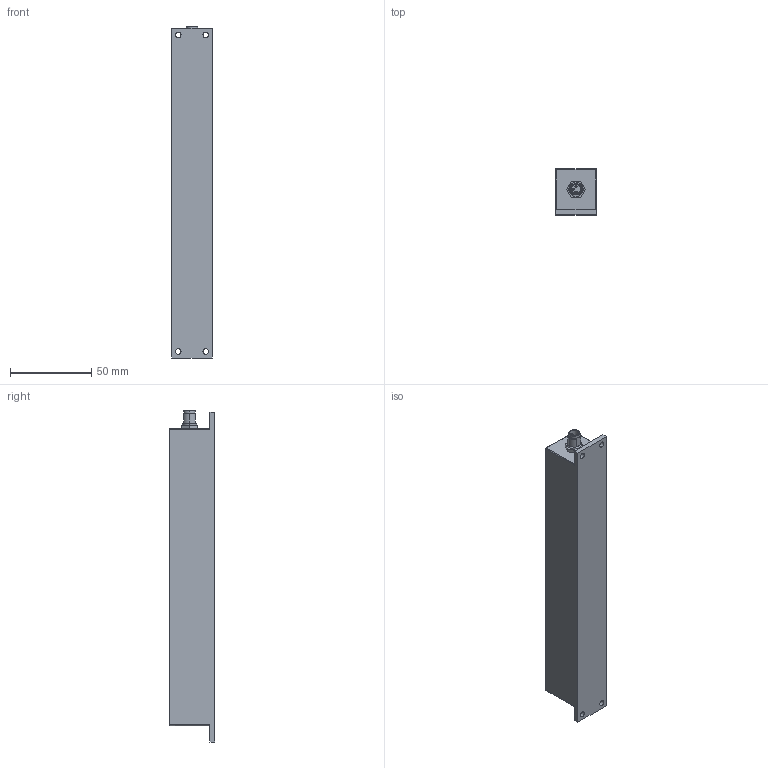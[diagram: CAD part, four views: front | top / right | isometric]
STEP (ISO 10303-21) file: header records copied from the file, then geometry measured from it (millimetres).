
FILE_DESCRIPTION (( 'STEP AP214' ), '1' );
FILE_NAME ('L1024.STEP', '2021-03-15T10:52:26', ( '' ), ( '' ), 'SwSTEP 2.0', 'SolidWorks 2021', '' );
FILE_SCHEMA (( 'AUTOMOTIVE_DESIGN' ));
Length unit declared in the file: millimetre
Products named in the file (3): L1024; L1G001024-203-einfach; M8 Flanschstecker, 3pol. mit Litzen
Assembly tree (2 placements, depth 2):
  L1024
    L1G001024-203-einfach
    M8 Flanschstecker, 3pol. mit Litzen
Bounding box: 25 x 28 x 204.5 mm (x, y, z)
Volume: 124898 mm3; surface area: 23431.8 mm2
Topology: 2 solids, 2 shells, 129 faces, 313 edges, 193 vertices
Faces by surface type: cylinder 58, plane 35, cone 22, torus 8, sphere 6
Entity records: 4055 total; most frequent: CARTESIAN_POINT 895, DIRECTION 691, ORIENTED_EDGE 602, EDGE_CURVE 301, AXIS2_PLACEMENT_3D 276, VERTEX_POINT 187, EDGE_LOOP 148, CIRCLE 142
